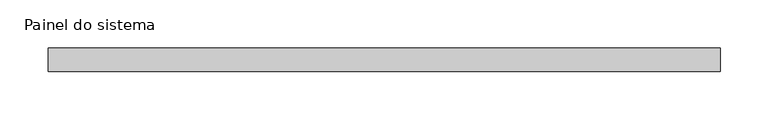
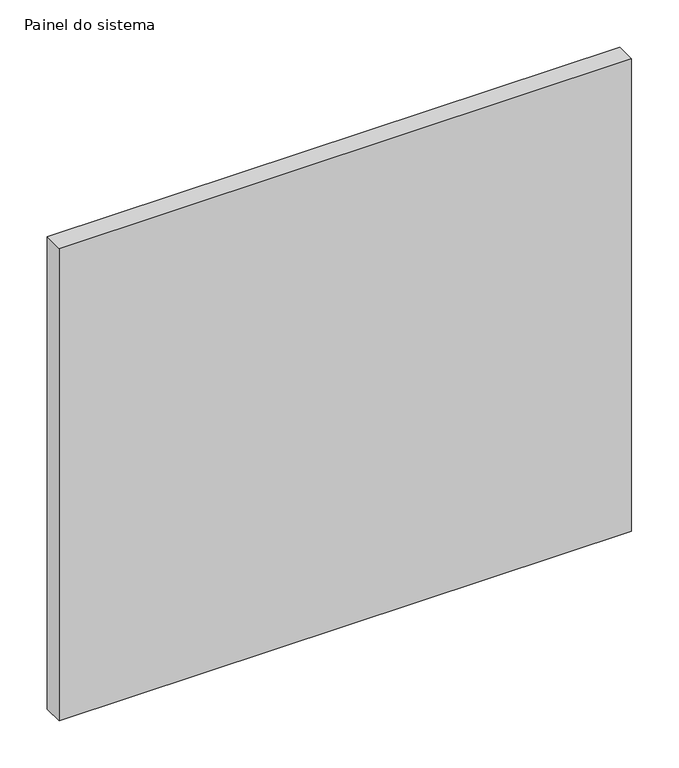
"""IFC4 building model written with IfcOpenShell, lengths in millimetres: plate geometry, Painel do sistema : Envidraçado."""

from ifc_helpers import new_model, si_unit, origin, origin_with_axes, place, context, project, spatial, polyline, outline, extrude, source, transform, mapped, element, save


def painel_do_sistema_8b49c646(model_context):
    return source(origin(), model_context, "Body", "SweptSolid", [
        extrude(outline(polyline([(350.0, 24.5), (-350.0, 24.5), (-350.0, 49.5), (350.0, 49.5), (350.0, 24.5)])), origin_with_axes(), (0.0, 0.0, 1.0), 610.0),
    ])


if __name__ == "__main__":
    model = new_model("IFC4")
    model_context = context("Model", 3, world=origin())
    ifc_project = project(units=[si_unit("LENGTHUNIT", "METRE", prefix="MILLI")], contexts=[model_context])
    site = spatial("IfcSite", under=ifc_project)
    building = spatial("IfcBuilding", under=site)
    placement = place(None, origin())
    painel_do_sistema_shape = painel_do_sistema_8b49c646(model_context)
    element("IfcPlate", 1, ObjectType="Painel do sistema : Envidraçado", at=placement, inside=building, context=model_context, shape_type="MappedRepresentation", body=[
        mapped(painel_do_sistema_shape, transform((0.0, 0.0, 0.0), x_axis=(1.0, 0.0, 0.0), y_axis=(0.0, 1.0, 0.0), z_axis=(0.0, 0.0, 1.0))),
    ])
    save(model, "model.ifc")
